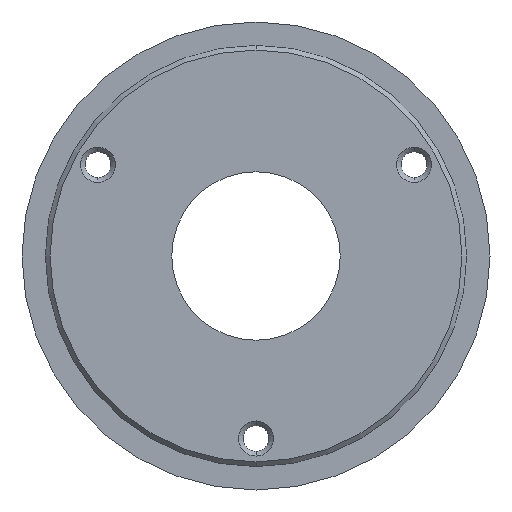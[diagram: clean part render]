
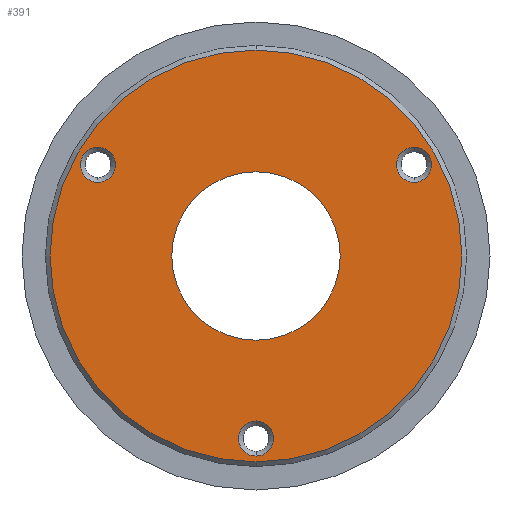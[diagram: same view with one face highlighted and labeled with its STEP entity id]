
A CAD part, front view. The second image highlights one B-rep face of the part: STEP entity #391.
In plain terms, the highlighted planar face has unit normal (0, -1, 0).
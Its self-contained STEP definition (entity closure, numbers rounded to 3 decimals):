
#13 = EDGE_LOOP ( 'NONE', ( #465, #409 ) ) ;
#22 = VERTEX_POINT ( 'NONE', #353 ) ;
#27 = EDGE_CURVE ( 'NONE', #992, #324, #808, .T. ) ;
#39 = DIRECTION ( 'NONE',  ( 0., 0., 1. ) ) ;
#50 = CARTESIAN_POINT ( 'NONE',  ( -33.775, 0., 15.75 ) ) ;
#91 = DIRECTION ( 'NONE',  ( 0., 1., 0. ) ) ;
#95 = AXIS2_PLACEMENT_3D ( 'NONE', #166, #281, #791 ) ;
#127 = CARTESIAN_POINT ( 'NONE',  ( -33.775, 0., 19.5 ) ) ;
#132 = DIRECTION ( 'NONE',  ( 0., 0., 1. ) ) ;
#148 = DIRECTION ( 'NONE',  ( 0., 0., 1. ) ) ;
#155 = EDGE_CURVE ( 'NONE', #324, #992, #439, .T. ) ;
#166 = CARTESIAN_POINT ( 'NONE',  ( 0., 0., -39. ) ) ;
#179 = VERTEX_POINT ( 'NONE', #396 ) ;
#183 = EDGE_CURVE ( 'NONE', #1101, #279, #404, .T. ) ;
#185 = DIRECTION ( 'NONE',  ( 0., -1., 0. ) ) ;
#192 = AXIS2_PLACEMENT_3D ( 'NONE', #1099, #715, #916 ) ;
#196 = CARTESIAN_POINT ( 'NONE',  ( 33.775, 0., 23.25 ) ) ;
#198 = EDGE_CURVE ( 'NONE', #508, #22, #386, .T. ) ;
#200 = ORIENTED_EDGE ( 'NONE', *, *, #1039, .T. ) ;
#206 = VERTEX_POINT ( 'NONE', #1170 ) ;
#208 = EDGE_CURVE ( 'NONE', #179, #486, #384, .T. ) ;
#211 = EDGE_CURVE ( 'NONE', #279, #1101, #348, .T. ) ;
#213 = AXIS2_PLACEMENT_3D ( 'NONE', #909, #91, #1145 ) ;
#214 = CIRCLE ( 'NONE', #375, 3.75 ) ;
#220 = EDGE_CURVE ( 'NONE', #486, #179, #331, .T. ) ;
#224 = EDGE_CURVE ( 'NONE', #897, #206, #315, .T. ) ;
#232 = DIRECTION ( 'NONE',  ( 0., 1., 0. ) ) ;
#240 = DIRECTION ( 'NONE',  ( 0., 0., 1. ) ) ;
#247 = DIRECTION ( 'NONE',  ( 0., 1., 0. ) ) ;
#255 = CARTESIAN_POINT ( 'NONE',  ( 0., 0., 0. ) ) ;
#267 = EDGE_LOOP ( 'NONE', ( #637, #522 ) ) ;
#279 = VERTEX_POINT ( 'NONE', #50 ) ;
#281 = DIRECTION ( 'NONE',  ( 0., 1., 0. ) ) ;
#311 = AXIS2_PLACEMENT_3D ( 'NONE', #378, #367, #39 ) ;
#315 = CIRCLE ( 'NONE', #701, 44. ) ;
#324 = VERTEX_POINT ( 'NONE', #1030 ) ;
#331 = CIRCLE ( 'NONE', #95, 3.75 ) ;
#345 = DIRECTION ( 'NONE',  ( 0., -1., 0. ) ) ;
#348 = CIRCLE ( 'NONE', #192, 3.75 ) ;
#353 = CARTESIAN_POINT ( 'NONE',  ( 33.775, 0., 15.75 ) ) ;
#367 = DIRECTION ( 'NONE',  ( 0., 1., 0. ) ) ;
#375 = AXIS2_PLACEMENT_3D ( 'NONE', #559, #567, #576 ) ;
#378 = CARTESIAN_POINT ( 'NONE',  ( 0., 0., -39. ) ) ;
#384 = CIRCLE ( 'NONE', #311, 3.75 ) ;
#386 = CIRCLE ( 'NONE', #444, 3.75 ) ;
#391 = ADVANCED_FACE ( 'NONE', ( #1021, #978, #1005, #981, #964 ), #812, .F. ) ;
#396 = CARTESIAN_POINT ( 'NONE',  ( 0., 0., -42.75 ) ) ;
#404 = CIRCLE ( 'NONE', #568, 3.75 ) ;
#409 = ORIENTED_EDGE ( 'NONE', *, *, #27, .F. ) ;
#425 = CIRCLE ( 'NONE', #653, 44. ) ;
#433 = DIRECTION ( 'NONE',  ( 0., 0., 1. ) ) ;
#439 = CIRCLE ( 'NONE', #1122, 18. ) ;
#444 = AXIS2_PLACEMENT_3D ( 'NONE', #557, #247, #148 ) ;
#465 = ORIENTED_EDGE ( 'NONE', *, *, #155, .F. ) ;
#468 = CARTESIAN_POINT ( 'NONE',  ( 0., 0., 44. ) ) ;
#482 = ORIENTED_EDGE ( 'NONE', *, *, #220, .T. ) ;
#486 = VERTEX_POINT ( 'NONE', #546 ) ;
#508 = VERTEX_POINT ( 'NONE', #196 ) ;
#522 = ORIENTED_EDGE ( 'NONE', *, *, #625, .T. ) ;
#527 = CARTESIAN_POINT ( 'NONE',  ( 0., 0., 0. ) ) ;
#540 = ORIENTED_EDGE ( 'NONE', *, *, #198, .T. ) ;
#546 = CARTESIAN_POINT ( 'NONE',  ( 0., 0., -35.25 ) ) ;
#557 = CARTESIAN_POINT ( 'NONE',  ( 33.775, 0., 19.5 ) ) ;
#559 = CARTESIAN_POINT ( 'NONE',  ( 33.775, 0., 19.5 ) ) ;
#567 = DIRECTION ( 'NONE',  ( 0., 1., 0. ) ) ;
#568 = AXIS2_PLACEMENT_3D ( 'NONE', #127, #232, #132 ) ;
#576 = DIRECTION ( 'NONE',  ( 0., 0., 1. ) ) ;
#609 = DIRECTION ( 'NONE',  ( 0., -1., 0. ) ) ;
#625 = EDGE_CURVE ( 'NONE', #206, #897, #425, .T. ) ;
#637 = ORIENTED_EDGE ( 'NONE', *, *, #224, .T. ) ;
#653 = AXIS2_PLACEMENT_3D ( 'NONE', #1129, #345, #433 ) ;
#701 = AXIS2_PLACEMENT_3D ( 'NONE', #527, #609, #240 ) ;
#702 = DIRECTION ( 'NONE',  ( 0., 0., -1. ) ) ;
#703 = CARTESIAN_POINT ( 'NONE',  ( -33.775, 0., 23.25 ) ) ;
#715 = DIRECTION ( 'NONE',  ( 0., 1., 0. ) ) ;
#783 = DIRECTION ( 'NONE',  ( 0., -1., 0. ) ) ;
#790 = AXIS2_PLACEMENT_3D ( 'NONE', #255, #185, #848 ) ;
#791 = DIRECTION ( 'NONE',  ( 0., 0., 1. ) ) ;
#808 = CIRCLE ( 'NONE', #790, 18. ) ;
#812 = PLANE ( 'NONE',  #213 ) ;
#848 = DIRECTION ( 'NONE',  ( 0., 0., -1. ) ) ;
#897 = VERTEX_POINT ( 'NONE', #468 ) ;
#904 = CARTESIAN_POINT ( 'NONE',  ( 0., 0., 18. ) ) ;
#908 = EDGE_LOOP ( 'NONE', ( #1040, #482 ) ) ;
#909 = CARTESIAN_POINT ( 'NONE',  ( -18., 0., 0. ) ) ;
#916 = DIRECTION ( 'NONE',  ( 0., 0., 1. ) ) ;
#935 = EDGE_LOOP ( 'NONE', ( #200, #540 ) ) ;
#964 = FACE_BOUND ( 'NONE', #13, .T. ) ;
#978 = FACE_BOUND ( 'NONE', #935, .T. ) ;
#979 = ORIENTED_EDGE ( 'NONE', *, *, #183, .T. ) ;
#981 = FACE_OUTER_BOUND ( 'NONE', #267, .T. ) ;
#992 = VERTEX_POINT ( 'NONE', #904 ) ;
#1005 = FACE_BOUND ( 'NONE', #908, .T. ) ;
#1015 = EDGE_LOOP ( 'NONE', ( #1167, #979 ) ) ;
#1021 = FACE_BOUND ( 'NONE', #1015, .T. ) ;
#1030 = CARTESIAN_POINT ( 'NONE',  ( 0., 0., -18. ) ) ;
#1039 = EDGE_CURVE ( 'NONE', #22, #508, #214, .T. ) ;
#1040 = ORIENTED_EDGE ( 'NONE', *, *, #208, .T. ) ;
#1084 = CARTESIAN_POINT ( 'NONE',  ( 0., 0., 0. ) ) ;
#1099 = CARTESIAN_POINT ( 'NONE',  ( -33.775, 0., 19.5 ) ) ;
#1101 = VERTEX_POINT ( 'NONE', #703 ) ;
#1122 = AXIS2_PLACEMENT_3D ( 'NONE', #1084, #783, #702 ) ;
#1129 = CARTESIAN_POINT ( 'NONE',  ( 0., 0., 0. ) ) ;
#1145 = DIRECTION ( 'NONE',  ( 0., 0., 1. ) ) ;
#1167 = ORIENTED_EDGE ( 'NONE', *, *, #211, .T. ) ;
#1170 = CARTESIAN_POINT ( 'NONE',  ( 0., 0., -44. ) ) ;
